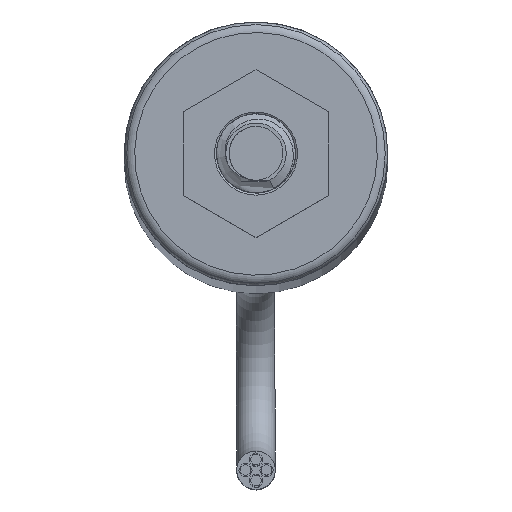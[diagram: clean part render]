
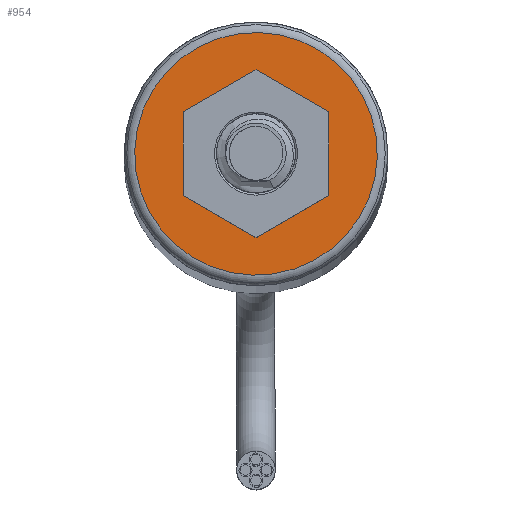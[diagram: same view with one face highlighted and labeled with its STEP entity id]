
A CAD part, top view. The second image highlights one B-rep face of the part: STEP entity #954.
In plain terms, the highlighted planar face has unit normal (0, 0, 1).
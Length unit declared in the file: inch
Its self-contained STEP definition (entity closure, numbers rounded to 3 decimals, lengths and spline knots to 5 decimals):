
#69=FACE_BOUND('',#190,.T.);
#87=PLANE('',#1193);
#123=FACE_OUTER_BOUND('',#189,.T.);
#189=EDGE_LOOP('',(#642));
#190=EDGE_LOOP('',(#643));
#367=CIRCLE('',#1188,0.23);
#371=CIRCLE('',#1194,0.11);
#424=VERTEX_POINT('',#1625);
#427=VERTEX_POINT('',#1635);
#506=EDGE_CURVE('',#424,#424,#367,.T.);
#511=EDGE_CURVE('',#427,#427,#371,.T.);
#642=ORIENTED_EDGE('',*,*,#506,.F.);
#643=ORIENTED_EDGE('',*,*,#511,.T.);
#954=ADVANCED_FACE('',(#123,#69),#87,.T.);
#1188=AXIS2_PLACEMENT_3D('',#1626,#1328,#1329);
#1193=AXIS2_PLACEMENT_3D('',#1634,#1339,#1340);
#1194=AXIS2_PLACEMENT_3D('',#1636,#1341,#1342);
#1328=DIRECTION('center_axis',(0.,0.,
-1.));
#1329=DIRECTION('ref_axis',(0.785,0.62,0.));
#1339=DIRECTION('center_axis',(0.,0.,
1.));
#1340=DIRECTION('ref_axis',(-0.785,-0.62,0.));
#1341=DIRECTION('center_axis',(0.,0.,
-1.));
#1342=DIRECTION('ref_axis',(-0.785,-0.62,0.));
#1625=CARTESIAN_POINT('',(0.18045,0.14261,0.03));
#1626=CARTESIAN_POINT('Origin',(0.,0.,
0.03));
#1634=CARTESIAN_POINT('Origin',(0.,0.,
0.03));
#1635=CARTESIAN_POINT('',(0.0863,0.06821,0.03));
#1636=CARTESIAN_POINT('Origin',(0.,0.,
0.03));
